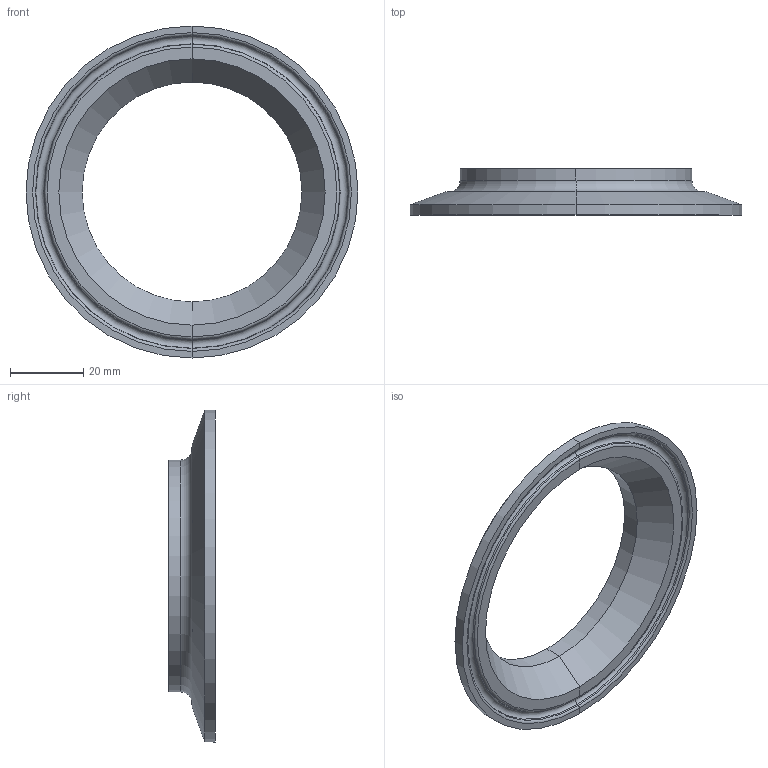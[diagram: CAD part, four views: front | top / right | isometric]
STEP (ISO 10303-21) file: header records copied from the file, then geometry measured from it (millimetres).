
FILE_DESCRIPTION (( 'STEP AP203' ), '1' );
FILE_NAME ('EG2CS31D3.0X2.5.STEP', '2018-04-30T14:21:29', ( 'vneprd' ), ( 'Microsoft' ), 'SwSTEP 2.0', 'SolidWorks 2014', '' );
FILE_SCHEMA (( 'CONFIG_CONTROL_DESIGN' ));
Length unit declared in the file: inch
Products named in the file (1): EG2CS31D3.0X2.5
Bounding box: 90.91 x 12.7 x 90.91 mm (x, y, z)
Volume: 15200.4 mm3; surface area: 11354.4 mm2
Topology: 1 solids, 1 shells, 28 faces, 56 edges, 30 vertices
Faces by surface type: cone 12, torus 8, cylinder 6, plane 2
Entity records: 805 total; most frequent: DIRECTION 152, CARTESIAN_POINT 115, ORIENTED_EDGE 112, AXIS2_PLACEMENT_3D 67, EDGE_CURVE 56, CIRCLE 38, EDGE_LOOP 30, VERTEX_POINT 30
